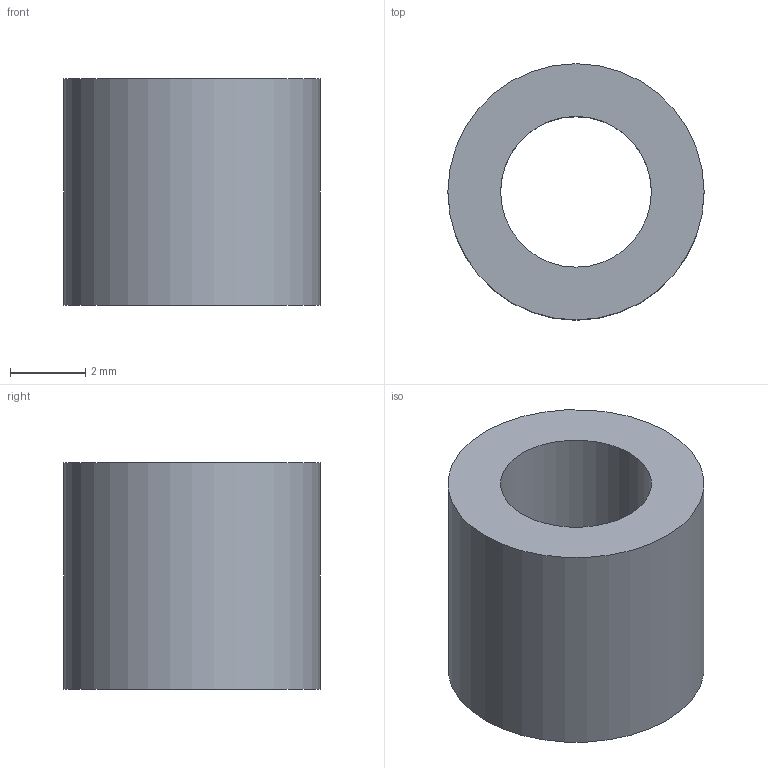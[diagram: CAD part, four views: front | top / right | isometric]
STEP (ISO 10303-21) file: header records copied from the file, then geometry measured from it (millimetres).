
FILE_DESCRIPTION(('FreeCAD Model'),'2;1');
FILE_NAME('Open CASCADE Shape Model','2026-02-04T17:25:52',(''),(''), 'Open CASCADE STEP processor 7.8','FreeCAD','Unknown');
FILE_SCHEMA(('AUTOMOTIVE_DESIGN { 1 0 10303 214 1 1 1 1 }'));
Length unit declared in the file: millimetre
Products named in the file (2): Hole Packers Part; Hole Packer  (4 of) Body
Assembly tree (1 placements, depth 2):
  Hole Packers Part
    Hole Packer  (4 of) Body
Bounding box: 6.8 x 6.8 x 6 mm (x, y, z)
Volume: 142.5 mm3; surface area: 251.1 mm2
Topology: 1 solids, 1 shells, 4 faces, 6 edges, 4 vertices
Faces by surface type: cylinder 2, plane 2
Full cylindrical faces by diameter (mm): 4 x1, 6.8 x1
Entity records: 216 total; most frequent: DIRECTION 34, CARTESIAN_POINT 28, ORIENTED_EDGE 12, PCURVE 12, DEFINITIONAL_REPRESENTATION 12, AXIS2_PLACEMENT_3D 10, LINE 10, VECTOR 10
